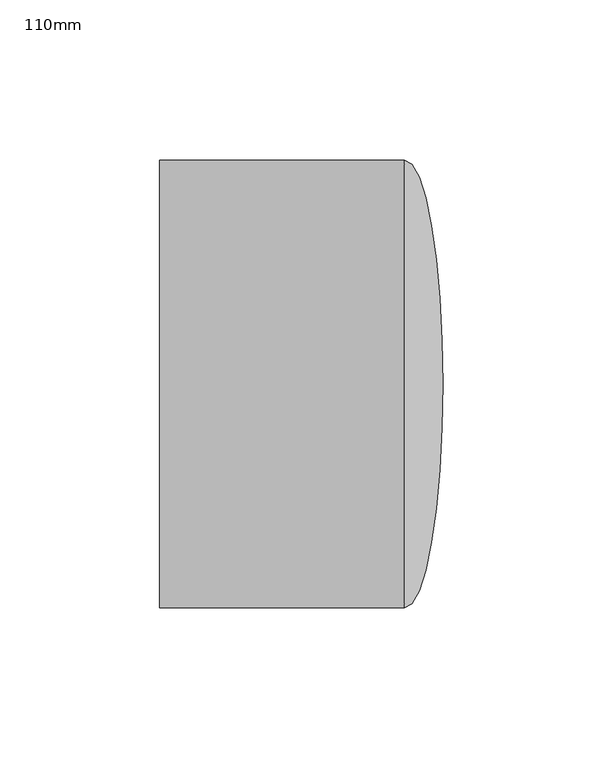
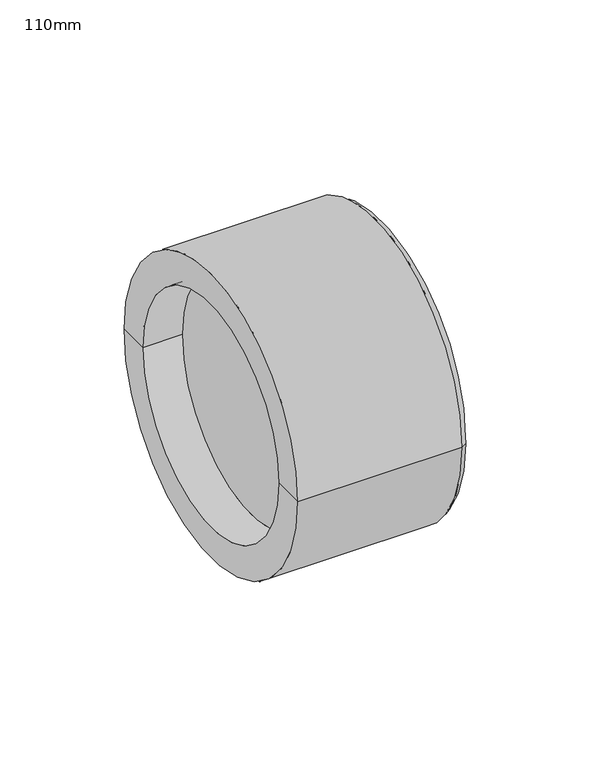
"""IFC4 building model written with IfcOpenShell, lengths in millimetres: pipe fitting geometry, PipeFitting_HTA_CPVC_Caps : 110mm."""

from ifc_helpers import new_model, si_unit, point, frame, origin, place, context, project, spatial, polyline, circle_curve, ellipse_curve, trimmed, source, transform, mapped, element, save
from ifc_brep_helpers import plane_surface, cylinder_surface, revolved_surface, advanced_brep


def pipe_fitting_110mm_caabd07a(model_context):
    return source(origin(), model_context, "Body", "AdvancedBrep", [
        advanced_brep(
        [(32.325, -70.0, 0.0), (32.325, 70.0, 0.0), (44.25, 0.0, 0.0), (-44.25, -70.0, 0.0), (-44.25, 70.0, 0.0), (-44.25, -55.0, 0.0), (-44.25, 55.0, 0.0), (-25.6796875, -55.0, 0.0), (-25.6796875, 55.0, 0.0)],
        [
            (0, 1, circle_curve(frame((32.325, 0.0, 0.0), z_axis=(1.0, 0.0, 0.0), x_axis=(0.0, 1.0, 0.0)), 70.0)),
            (1, 2, ellipse_curve(frame((32.325, 0.0, 0.0), z_axis=(0.0, 0.0, -1.0), x_axis=(0.0, 1.0, 0.0)), 70.0, 11.925)),
            (2, 0, ellipse_curve(frame((32.325, 0.0, 0.0), z_axis=(0.0, 0.0, -1.0), x_axis=(0.0, -1.0, 0.0)), 70.0, 11.925)),
            (1, 0, circle_curve(frame((32.325, 0.0, 0.0), z_axis=(1.0, 0.0, 0.0), x_axis=(0.0, 1.0, 0.0)), 70.0)),
            (0, 3),
            (3, 4, circle_curve(frame((-44.25, 0.0, 0.0), z_axis=(1.0, 0.0, 0.0), x_axis=(0.0, 1.0, 0.0)), 70.0)),
            (4, 1),
            (4, 3, circle_curve(frame((-44.25, 0.0, 0.0), z_axis=(1.0, 0.0, 0.0), x_axis=(0.0, 1.0, 0.0)), 70.0)),
            (3, 5),
            (5, 6, circle_curve(frame((-44.25, 0.0, 0.0), z_axis=(1.0, 0.0, 0.0), x_axis=(0.0, 1.0, 0.0)), 55.0)),
            (6, 4),
            (6, 5, circle_curve(frame((-44.25, 0.0, 0.0), z_axis=(1.0, 0.0, 0.0), x_axis=(0.0, 1.0, 0.0)), 55.0)),
            (7, 8, circle_curve(frame((-25.6796875, 0.0, 0.0), z_axis=(-1.0, 0.0, 0.0), x_axis=(0.0, 1.0, 0.0)), 55.0)),
            (8, 7, circle_curve(frame((-25.6796875, 0.0, 0.0), z_axis=(-1.0, 0.0, 0.0), x_axis=(0.0, 1.0, 0.0)), 55.0)),
            (8, 6),
            (5, 7),
        ],
        [
            revolved_surface(trimmed(ellipse_curve(frame((32.325, 0.0, 0.0), z_axis=(0.0, 0.0, 1.0), x_axis=(0.0, 1.0, 0.0)), 70.0, 11.925), [point((44.25, 0.0, 0.0))], [point((32.325, 70.0, 0.0))], True, "CARTESIAN"), (-380.0, 0.0, 0.0), (-1.0, 0.0, 0.0)),
            cylinder_surface(frame((-380.0, 0.0, 0.0), z_axis=(-1.0, 0.0, 0.0), x_axis=(0.0, 1.0, 0.0)), 70.0),
            plane_surface(frame((-44.25, 0.0, 0.0), z_axis=(-1.0, 0.0, 0.0), x_axis=(0.0, 1.0, 0.0))),
            plane_surface(frame((-25.6796875, 55.0, 0.0), z_axis=(-1.0, 0.0, 0.0), x_axis=(0.0, 0.0, 1.0))),
            revolved_surface(polyline([(-25.6796875, 55.0, 0.0), (-44.25, 55.0, 0.0)]), (-44.25, 0.0, 0.0), (1.0, 0.0, 0.0)),
        ],
        [
            (0, [[1, 2, 3]]),
            (0, [[-2, 4, -3]]),
            (1, [[-1, 5, 6, 7]]),
            (1, [[-4, -7, 8, -5]]),
            (2, [[-6, 9, 10, 11]]),
            (2, [[-8, -11, 12, -9]]),
            (3, [[13, 14]]),
            (4, [[-14, 15, -10, 16]]),
            (4, [[-13, -16, -12, -15]]),
        ],
    ),
    ])


if __name__ == "__main__":
    model = new_model("IFC4")
    model_context = context("Model", 3, world=origin())
    ifc_project = project(units=[si_unit("LENGTHUNIT", "METRE", prefix="MILLI")], contexts=[model_context])
    site = spatial("IfcSite", under=ifc_project)
    building = spatial("IfcBuilding", under=site)
    placement = place(None, origin())
    pipe_fitting_110mm_shape = pipe_fitting_110mm_caabd07a(model_context)
    element("IfcPipeFitting", 1, ObjectType="PipeFitting_HTA_CPVC_Caps : 110mm", at=placement, inside=building, context=model_context, shape_type="MappedRepresentation", body=[
        mapped(pipe_fitting_110mm_shape, transform((0.0, 0.0, 0.0), x_axis=(1.0, 0.0, 0.0), y_axis=(0.0, 1.0, 0.0), z_axis=(0.0, 0.0, 1.0))),
    ])
    save(model, "model.ifc")
